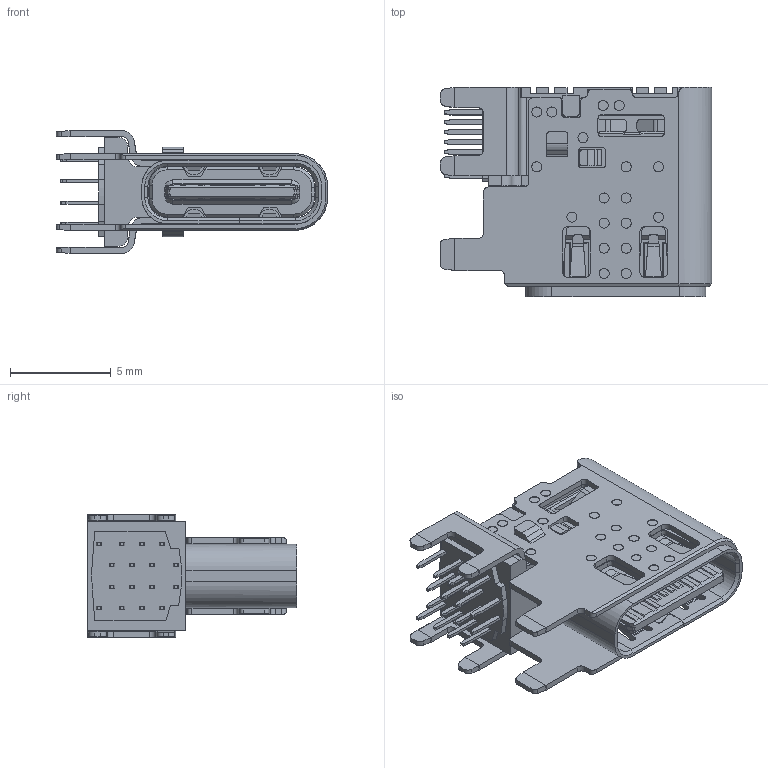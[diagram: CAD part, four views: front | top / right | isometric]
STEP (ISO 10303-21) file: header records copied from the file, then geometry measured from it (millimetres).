
FILE_DESCRIPTION(/* description */ (''),/* implementation_level */ '2;1');
FILE_NAME(/* name */ 'USB-CF-DIP-023-HB-3D.stp',/* time_stamp */ '2021-08-24T15:19:41+08:00',/* author */ (''),/* organization */ (''),/* preprocessor_version */ 'ST-DEVELOPER v16',/* originating_system */ 'SIEMENS PLM Software NX 10.0',/* authorisation */ '');
FILE_SCHEMA (('AUTOMOTIVE_DESIGN { 1 0 10303 214 3 1 1 1 }'));
Length unit declared in the file: millimetre
Products named in the file (1): cabl1CF84124bnmt
Bounding box: 13.48 x 10.4 x 6.09 mm (x, y, z)
Volume: 308.7 mm3; surface area: 1272.5 mm2
Topology: 1 solids, 18 shells, 1389 faces, 3836 edges, 2516 vertices
Faces by surface type: plane 966, cylinder 395, cone 24, bspline 4
Entity records: 44471 total; most frequent: CARTESIAN_POINT 8567, ORIENTED_EDGE 7674, DIRECTION 7215, EDGE_CURVE 3837, LINE 2953, VECTOR 2953, VERTEX_POINT 2517, AXIS2_PLACEMENT_3D 2131
